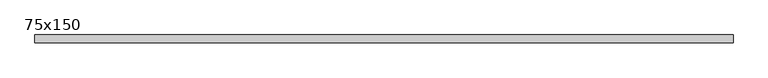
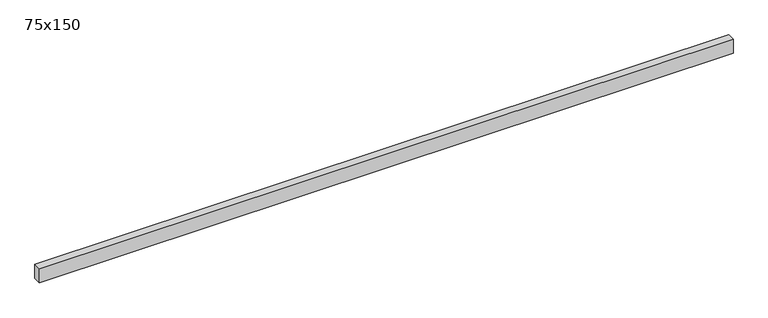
"""IFC4 building model written with IfcOpenShell, lengths in millimetres: beam geometry, Graded Timber : 75x150."""

from ifc_helpers import new_model, si_unit, frame, origin, place, context, project, spatial, polyline, outline, extrude, source, transform, mapped, element, save


def beam_75x150_52f7aa44(model_context):
    return source(origin(), model_context, "Body", "SweptSolid", [
        extrude(outline(polyline([(4973.5157766, 37.5), (4973.5157766, -37.5), (-1790.0, -37.5), (-1790.0, 37.5), (4973.5157766, 37.5)])), frame((0.0, 0.0, -72.5), z_axis=(0.0, 0.0, 1.0), x_axis=(1.0, 0.0, 0.0)), (0.0, 0.0, 1.0), 145.0),
    ])


if __name__ == "__main__":
    model = new_model("IFC4")
    model_context = context("Model", 3, world=origin())
    ifc_project = project(units=[si_unit("LENGTHUNIT", "METRE", prefix="MILLI")], contexts=[model_context])
    site = spatial("IfcSite", under=ifc_project)
    building = spatial("IfcBuilding", under=site)
    placement = place(None, origin())
    beam_75x150_shape = beam_75x150_52f7aa44(model_context)
    element("IfcBeam", 1, ObjectType="Graded Timber : 75x150", at=placement, inside=building, context=model_context, shape_type="MappedRepresentation", body=[
        mapped(beam_75x150_shape, transform((0.0, 0.0, 0.0), x_axis=(1.0, 0.0, 0.0), y_axis=(0.0, 1.0, 0.0), z_axis=(0.0, 0.0, 1.0))),
    ])
    save(model, "model.ifc")
